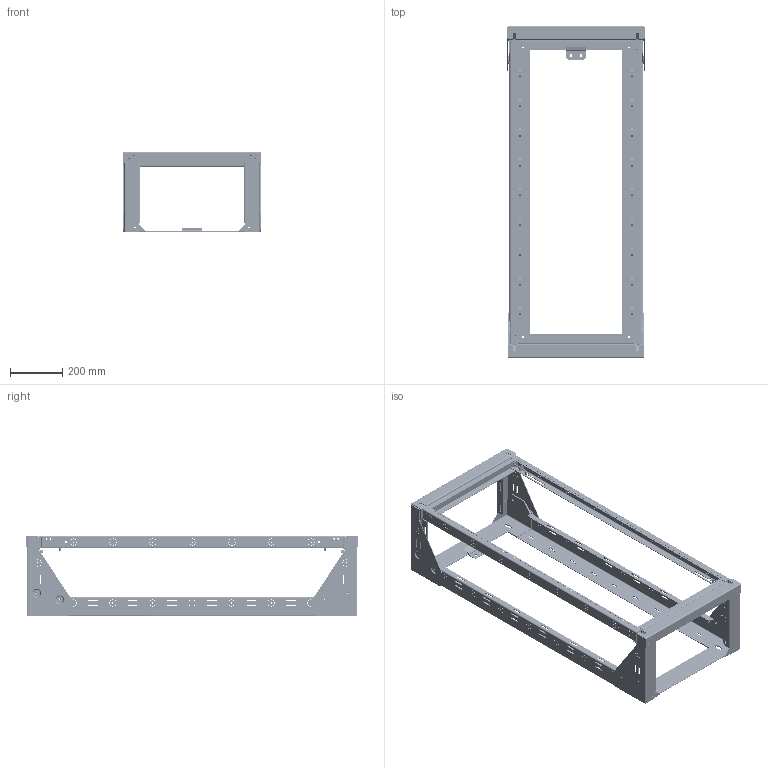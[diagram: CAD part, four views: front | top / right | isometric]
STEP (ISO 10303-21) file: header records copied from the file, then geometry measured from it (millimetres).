
FILE_DESCRIPTION (( 'STEP AP203' ), '1' );
FILE_NAME ('e19swm25u12.STEP', '2012-10-15T15:48:36', ( 'User' ), ( 'Pentair Inc' ), 'SwSTEP 2.0', 'SolidWorks 2010', '' );
FILE_SCHEMA (( 'CONFIG_CONTROL_DESIGN' ));
Length unit declared in the file: inch
Products named in the file (24): e19swm25u12; 89094740; 89094739; 89094738_Default<As Machined>; 89088132_Default<As Machined>; 89088073; 89094641; 89094640; 89094639; 89094638; 89092193; 89089985; 89089984; 89089987; 89089986; 89092514_PEM S-0420-2; 89094743; 89094742_NO HINGE; 89088075; 89094741; 89090814; 89090813; 87800103_87800103; 87800105_87800105
Assembly tree (51 placements, depth 4):
  e19swm25u12
    89094641
    89094638
    89094640
    89089985  x2
      89092514_PEM S-0420-2
      89089984
    89094639
    89092193
    89094743
      89094742_NO HINGE
        89094741  x2
        89088075  x2
        89090814  x4
      87800103_87800103  x4
      89090813  x4
      87800105_87800105  x4
    89088073  x2
    89089987  x2
      89092514_PEM S-0420-2
      89089986
    89094740
      89094739  x2
        89092514_PEM S-0420-2
        89094738_Default<As Machined>
      89088132_Default<As Machined>  x2
Bounding box: 528.98 x 1276.55 x 310.57 mm (x, y, z)
Volume: 3281592 mm3; surface area: 2774791 mm2
Topology: 55 solids, 55 shells, 5134 faces, 13868 edges, 8924 vertices
Faces by surface type: plane 2866, cylinder 1916, cone 176, torus 136, bspline 40
Entity records: 66369 total; most frequent: CARTESIAN_POINT 15117, DIRECTION 10449, ORIENTED_EDGE 9582, EDGE_CURVE 4791, AXIS2_PLACEMENT_3D 3856, VERTEX_POINT 3066, LINE 2737, VECTOR 2737
